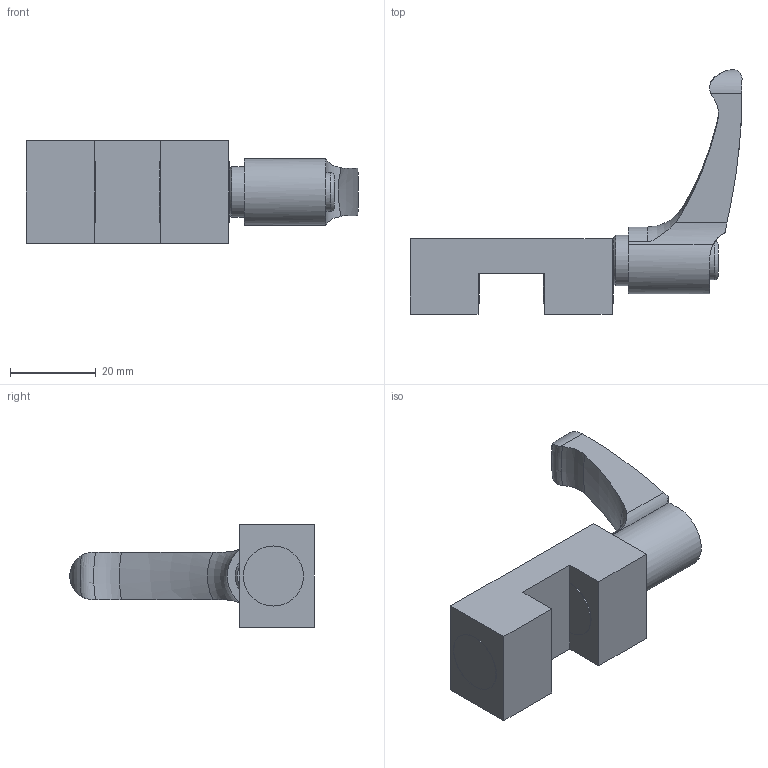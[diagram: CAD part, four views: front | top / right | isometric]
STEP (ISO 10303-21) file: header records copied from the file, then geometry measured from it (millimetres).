
FILE_DESCRIPTION(/* description */ ('STEP AP214'),/* implementation_level */ '2;1');
FILE_NAME(/* name */ 'HK1501A',/* time_stamp */ '2023-05-08T12:26:23+02:00',/* author */ ('License CC BY-ND 4.0'),/* organization */ ('CADENAS'),/* preprocessor_version */ 'ST-DEVELOPER v19.3',/* originating_system */ 'PARTsolutions',/* authorisation */ ' ');
FILE_SCHEMA (('AUTOMOTIVE_DESIGN {1 0 10303 214 3 1 1}'));
Length unit declared in the file: millimetre
Products named in the file (3): HK1501A; ELESA-Klemmhebel GN 604-44-M4-SG_NBK; ghkHK1501A6.52415
Assembly tree (2 placements, depth 2):
  HK1501A
    ELESA-Klemmhebel GN 604-44-M4-SG_NBK
    ghkHK1501A6.52415
Bounding box: 77.38 x 56.94 x 24 mm (x, y, z)
Volume: 23455.9 mm3; surface area: 8117.8 mm2
Topology: 2 solids, 2 shells, 64 faces, 161 edges, 106 vertices
Faces by surface type: plane 29, cylinder 18, cone 9, torus 8
Full cylindrical faces by diameter (mm): 3.242 x5, 11.8 x1, 14 x2
Entity records: 1914 total; most frequent: CARTESIAN_POINT 442, DIRECTION 282, ORIENTED_EDGE 266, EDGE_CURVE 133, AXIS2_PLACEMENT_3D 110, VERTEX_POINT 100, FACE_BOUND 91, EDGE_LOOP 87
